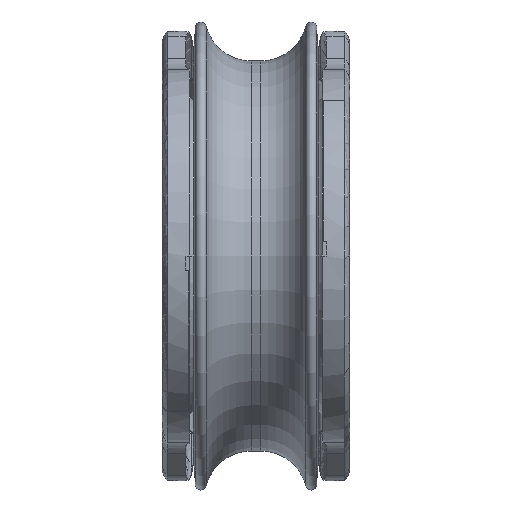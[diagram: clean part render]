
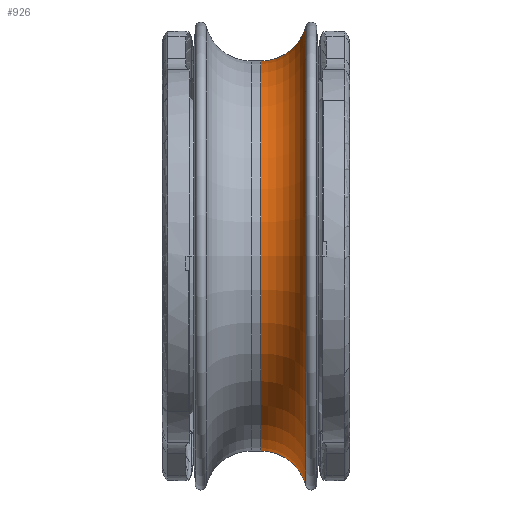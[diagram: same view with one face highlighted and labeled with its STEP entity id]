
A CAD part, front view. The second image highlights one B-rep face of the part: STEP entity #926.
In plain terms, the highlighted toroidal (fillet/blend) face has major radius 31 mm and minor radius 6 mm.
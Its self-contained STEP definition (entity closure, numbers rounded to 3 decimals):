
#206=CARTESIAN_POINT('',(0.6,0.,31.));
#207=DIRECTION('',(0.,1.,0.));
#208=DIRECTION('',(0.967,0.,-0.254));
#209=AXIS2_PLACEMENT_3D('',#206,#207,#208);
#211=CARTESIAN_POINT('',(6.404,0.,0.));
#212=DIRECTION('',(1.,0.,0.));
#213=DIRECTION('',(0.,0.,1.));
#214=AXIS2_PLACEMENT_3D('',#211,#212,#213);
#216=CARTESIAN_POINT('',(0.6,0.,-31.));
#217=DIRECTION('',(0.,-1.,0.));
#218=DIRECTION('',(0.967,0.,0.254));
#219=AXIS2_PLACEMENT_3D('',#216,#217,#218);
#240=CARTESIAN_POINT('',(0.6,0.,0.));
#241=DIRECTION('',(1.,0.,0.));
#242=DIRECTION('',(0.,0.,1.));
#243=AXIS2_PLACEMENT_3D('',#240,#241,#242);
#536=CARTESIAN_POINT('',(6.404,0.,29.478));
#537=VERTEX_POINT('',#536);
#538=CARTESIAN_POINT('',(0.6,0.,25.));
#539=VERTEX_POINT('',#538);
#558=CARTESIAN_POINT('',(6.404,0.,-29.478));
#559=VERTEX_POINT('',#558);
#560=CARTESIAN_POINT('',(0.6,0.,-25.));
#561=VERTEX_POINT('',#560);
#912=CARTESIAN_POINT('',(0.6,0.,0.));
#913=DIRECTION('',(-1.,0.,0.));
#914=DIRECTION('',(0.,0.,-1.));
#915=AXIS2_PLACEMENT_3D('',#912,#913,#914);
#916=TOROIDAL_SURFACE('',#915,31.,6.);
#918=ORIENTED_EDGE('',*,*,#917,.F.);
#919=ORIENTED_EDGE('',*,*,#907,.T.);
#921=ORIENTED_EDGE('',*,*,#920,.T.);
#923=ORIENTED_EDGE('',*,*,#922,.F.);
#924=EDGE_LOOP('',(#918,#919,#921,#923));
#925=FACE_OUTER_BOUND('',#924,.F.);
#926=ADVANCED_FACE('',(#925),#916,.F.);
#210=CIRCLE('',#209,6.);
#215=CIRCLE('',#214,29.478);
#220=CIRCLE('',#219,6.);
#244=CIRCLE('',#243,25.);
#907=EDGE_CURVE('',#537,#559,#215,.T.);
#917=EDGE_CURVE('',#537,#539,#210,.T.);
#920=EDGE_CURVE('',#559,#561,#220,.T.);
#922=EDGE_CURVE('',#539,#561,#244,.T.);
